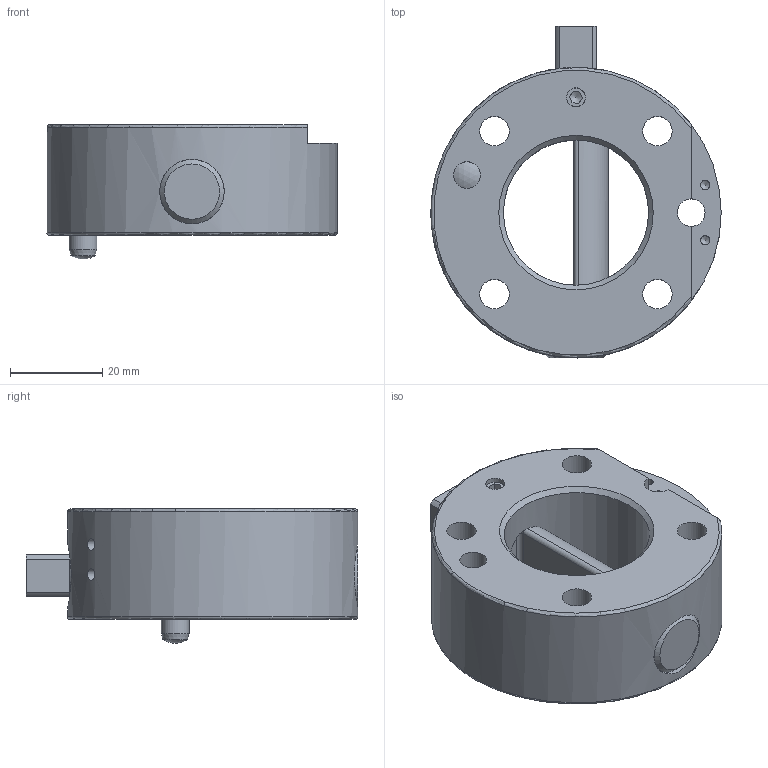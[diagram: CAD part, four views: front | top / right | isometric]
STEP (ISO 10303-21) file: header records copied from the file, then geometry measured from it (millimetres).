
FILE_DESCRIPTION((''),'2;1');
FILE_NAME('T:\CAD\Standard\Daten\3D-Datenbank\SWS\SWS063\Step-Daten\G-SWS063-2OE.stp','2011-08-18T14:26:14',('Yvonne'),(''),'Autodesk Inventor 2011','Autodesk Inventor 2011','');
FILE_SCHEMA(('AUTOMOTIVE_DESIGN { 1 0 10303 214 1 1 1 1 }'));
Length unit declared in the file: millimetre
Products named in the file (1): Bauteil8
Bounding box: 62.99 x 72 x 29.17 mm (x, y, z)
Volume: 52510.4 mm3; surface area: 16269.4 mm2
Topology: 1 solids, 1 shells, 89 faces, 215 edges, 136 vertices
Faces by surface type: cylinder 39, plane 30, cone 10, bspline 4, torus 4, sphere 2
Full cylindrical faces by diameter (mm): 2.013 x2, 2.459 x2, 3.5 x1, 4.134 x3, 5.8 x1, 6 x2, 6.4 x4, 11 x4, 14 x2, 31.5 x1, 63 x1
Entity records: 2977 total; most frequent: CARTESIAN_POINT 980, DIRECTION 380, ORIENTED_EDGE 338, EDGE_CURVE 169, AXIS2_PLACEMENT_3D 163, EDGE_LOOP 151, VERTEX_POINT 124, STYLED_ITEM 90
